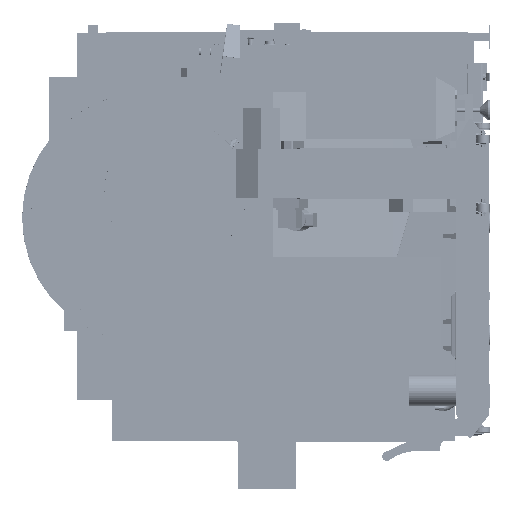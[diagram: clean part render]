
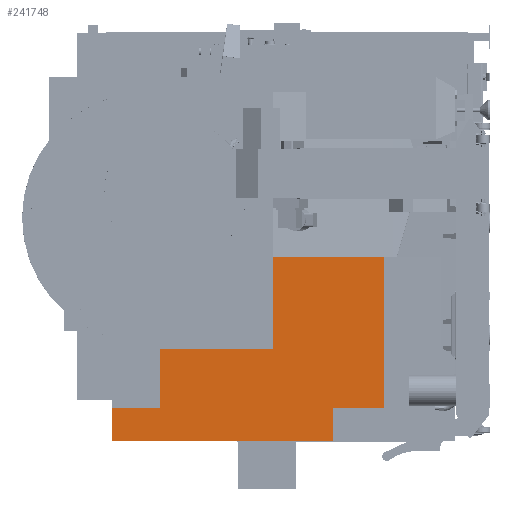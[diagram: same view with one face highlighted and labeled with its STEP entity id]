
A CAD part, left-side view. The second image highlights one B-rep face of the part: STEP entity #241748.
In plain terms, the highlighted planar face has unit normal (-1, 0, 0).
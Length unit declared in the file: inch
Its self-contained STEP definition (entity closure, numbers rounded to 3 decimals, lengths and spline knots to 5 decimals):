
#4306 = LINE ( 'NONE', #396179, #340717 ) ;
#9509 = EDGE_CURVE ( 'NONE', #98288, #141368, #370403, .T. ) ;
#15614 = CARTESIAN_POINT ( 'NONE',  ( -34.9309, 57.4563, -37.12605 ) ) ;
#28564 = ORIENTED_EDGE ( 'NONE', *, *, #605604, .T. ) ;
#30436 = ORIENTED_EDGE ( 'NONE', *, *, #9509, .T. ) ;
#38043 = LINE ( 'NONE', #93453, #123221 ) ;
#38330 = CARTESIAN_POINT ( 'NONE',  ( -34.9309, 3.3677, -45.21736 ) ) ;
#46517 = CARTESIAN_POINT ( 'NONE',  ( -34.9309, 49.91678, -37.0219 ) ) ;
#52483 = VERTEX_POINT ( 'NONE', #46517 ) ;
#55293 = EDGE_CURVE ( 'NONE', #141368, #148075, #625963, .T. ) ;
#58801 = ORIENTED_EDGE ( 'NONE', *, *, #378676, .T. ) ;
#72160 = VECTOR ( 'NONE', #471631, 39.37008 ) ;
#74214 = DIRECTION ( 'NONE',  ( 0., 1., 0. ) ) ;
#79356 = DIRECTION ( 'NONE',  ( 0., 0., 1. ) ) ;
#81147 = EDGE_CURVE ( 'NONE', #191463, #52483, #500650, .T. ) ;
#85596 = DIRECTION ( 'NONE',  ( 0., 0., 1. ) ) ;
#93453 = CARTESIAN_POINT ( 'NONE',  ( -34.9309, 57.4563, -37.12605 ) ) ;
#98288 = VERTEX_POINT ( 'NONE', #15614 ) ;
#104039 = LINE ( 'NONE', #299980, #439195 ) ;
#105987 = CARTESIAN_POINT ( 'NONE',  ( -34.9309, 18.04185, 0.02764 ) ) ;
#107120 = CARTESIAN_POINT ( 'NONE',  ( -34.9309, 18.04185, -22.55601 ) ) ;
#115213 = ORIENTED_EDGE ( 'NONE', *, *, #55293, .T. ) ;
#118195 = EDGE_CURVE ( 'NONE', #227862, #52483, #4306, .T. ) ;
#123221 = VECTOR ( 'NONE', #439612, 39.37008 ) ;
#124917 = CARTESIAN_POINT ( 'NONE',  ( -34.9309, -9.22642, -37.12605 ) ) ;
#126099 = VERTEX_POINT ( 'NONE', #415630 ) ;
#134231 = DIRECTION ( 'NONE',  ( 0., -1., 0. ) ) ;
#138128 = CARTESIAN_POINT ( 'NONE',  ( -34.9309, 0., 0. ) ) ;
#141368 = VERTEX_POINT ( 'NONE', #553519 ) ;
#148075 = VERTEX_POINT ( 'NONE', #341939 ) ;
#148353 = VECTOR ( 'NONE', #580080, 39.37008 ) ;
#160348 = EDGE_LOOP ( 'NONE', ( #506291, #325975, #58801, #28564, #30436, #115213, #560637, #225455, #458732, #458731, #630408, #327880, #636270 ) ) ;
#176832 = CARTESIAN_POINT ( 'NONE',  ( -34.9309, 49.91678, -37.12605 ) ) ;
#177353 = LINE ( 'NONE', #526776, #246118 ) ;
#183924 = DIRECTION ( 'NONE',  ( 0., 0., 1. ) ) ;
#187149 = PLANE ( 'NONE',  #301815 ) ;
#188063 = CARTESIAN_POINT ( 'NONE',  ( -34.9309, 5.2877, -45.21736 ) ) ;
#191463 = VERTEX_POINT ( 'NONE', #387147 ) ;
#225455 = ORIENTED_EDGE ( 'NONE', *, *, #259511, .T. ) ;
#227862 = VERTEX_POINT ( 'NONE', #639947 ) ;
#241748 = ADVANCED_FACE ( 'NONE', ( #281971 ), #187149, .T. ) ;
#246118 = VECTOR ( 'NONE', #79356, 39.37008 ) ;
#247094 = DIRECTION ( 'NONE',  ( 0., 0., -1. ) ) ;
#252435 = CARTESIAN_POINT ( 'NONE',  ( -34.9309, 0., -37.0219 ) ) ;
#259511 = EDGE_CURVE ( 'NONE', #466864, #374985, #581685, .T. ) ;
#281971 = FACE_OUTER_BOUND ( 'NONE', #160348, .T. ) ;
#299980 = CARTESIAN_POINT ( 'NONE',  ( -34.9309, 57.4563, -37.12605 ) ) ;
#301815 = AXIS2_PLACEMENT_3D ( 'NONE', #138128, #435340, #183924 ) ;
#325975 = ORIENTED_EDGE ( 'NONE', *, *, #522623, .F. ) ;
#327880 = ORIENTED_EDGE ( 'NONE', *, *, #448936, .T. ) ;
#328846 = CARTESIAN_POINT ( 'NONE',  ( -34.9309, 0., 0.02764 ) ) ;
#337355 = EDGE_CURVE ( 'NONE', #390097, #589059, #426800, .T. ) ;
#338495 = CARTESIAN_POINT ( 'NONE',  ( -34.9309, 57.45571, -37.12605 ) ) ;
#340717 = VECTOR ( 'NONE', #347193, 39.37008 ) ;
#341354 = VECTOR ( 'NONE', #615951, 39.37008 ) ;
#341939 = CARTESIAN_POINT ( 'NONE',  ( -34.9309, 3.3677, -45.21736 ) ) ;
#347193 = DIRECTION ( 'NONE',  ( 0., 0., -1. ) ) ;
#353621 = DIRECTION ( 'NONE',  ( 0., 1., 0. ) ) ;
#370403 = LINE ( 'NONE', #527095, #72160 ) ;
#374985 = VERTEX_POINT ( 'NONE', #432671 ) ;
#378676 = EDGE_CURVE ( 'NONE', #126099, #498605, #104039, .T. ) ;
#379234 = VECTOR ( 'NONE', #74214, 39.37008 ) ;
#385961 = LINE ( 'NONE', #124917, #491883 ) ;
#387147 = CARTESIAN_POINT ( 'NONE',  ( -34.9309, 45.80362, -37.0219 ) ) ;
#390097 = VERTEX_POINT ( 'NONE', #628934 ) ;
#396179 = CARTESIAN_POINT ( 'NONE',  ( -34.9309, 49.91678, -22.55601 ) ) ;
#409385 = VERTEX_POINT ( 'NONE', #107120 ) ;
#415630 = CARTESIAN_POINT ( 'NONE',  ( -34.9309, 45.80362, -37.12605 ) ) ;
#425480 = EDGE_CURVE ( 'NONE', #589059, #409385, #484158, .T. ) ;
#426800 = LINE ( 'NONE', #328846, #379234 ) ;
#432671 = CARTESIAN_POINT ( 'NONE',  ( -34.9309, -9.22642, -37.12605 ) ) ;
#435146 = CARTESIAN_POINT ( 'NONE',  ( -34.9309, 18.04185, -22.55601 ) ) ;
#435340 = DIRECTION ( 'NONE',  ( -1., 0., 0. ) ) ;
#439195 = VECTOR ( 'NONE', #453408, 39.37008 ) ;
#439612 = DIRECTION ( 'NONE',  ( 0., 1., 0. ) ) ;
#448936 = EDGE_CURVE ( 'NONE', #409385, #227862, #531116, .T. ) ;
#453408 = DIRECTION ( 'NONE',  ( 0., 1., 0. ) ) ;
#458731 = ORIENTED_EDGE ( 'NONE', *, *, #337355, .T. ) ;
#458732 = ORIENTED_EDGE ( 'NONE', *, *, #516485, .T. ) ;
#460985 = VECTOR ( 'NONE', #247094, 39.37008 ) ;
#464076 = VECTOR ( 'NONE', #521480, 39.37008 ) ;
#466864 = VERTEX_POINT ( 'NONE', #517455 ) ;
#471631 = DIRECTION ( 'NONE',  ( 0., 0., -1. ) ) ;
#483398 = VECTOR ( 'NONE', #134231, 39.37008 ) ;
#484158 = LINE ( 'NONE', #435146, #341354 ) ;
#491883 = VECTOR ( 'NONE', #85596, 39.37008 ) ;
#498605 = VERTEX_POINT ( 'NONE', #338495 ) ;
#500650 = LINE ( 'NONE', #252435, #539507 ) ;
#506291 = ORIENTED_EDGE ( 'NONE', *, *, #81147, .F. ) ;
#516485 = EDGE_CURVE ( 'NONE', #374985, #390097, #385961, .T. ) ;
#517455 = CARTESIAN_POINT ( 'NONE',  ( -34.9309, 3.3677, -37.12605 ) ) ;
#521480 = DIRECTION ( 'NONE',  ( 0., 1., 0. ) ) ;
#522623 = EDGE_CURVE ( 'NONE', #126099, #191463, #177353, .T. ) ;
#526776 = CARTESIAN_POINT ( 'NONE',  ( -34.9309, 45.80362, 0. ) ) ;
#527095 = CARTESIAN_POINT ( 'NONE',  ( -34.9309, 57.4563, -45.21736 ) ) ;
#531116 = LINE ( 'NONE', #625975, #464076 ) ;
#534738 = LINE ( 'NONE', #38330, #460985 ) ;
#539507 = VECTOR ( 'NONE', #353621, 39.37008 ) ;
#553519 = CARTESIAN_POINT ( 'NONE',  ( -34.9309, 57.4563, -45.21736 ) ) ;
#560637 = ORIENTED_EDGE ( 'NONE', *, *, #586117, .F. ) ;
#580080 = DIRECTION ( 'NONE',  ( 0., -1., 0. ) ) ;
#581685 = LINE ( 'NONE', #176832, #483398 ) ;
#586117 = EDGE_CURVE ( 'NONE', #466864, #148075, #534738, .T. ) ;
#589059 = VERTEX_POINT ( 'NONE', #105987 ) ;
#605604 = EDGE_CURVE ( 'NONE', #498605, #98288, #38043, .T. ) ;
#615951 = DIRECTION ( 'NONE',  ( 0., 0., -1. ) ) ;
#625963 = LINE ( 'NONE', #188063, #148353 ) ;
#625975 = CARTESIAN_POINT ( 'NONE',  ( -34.9309, 49.91678, -22.55601 ) ) ;
#628934 = CARTESIAN_POINT ( 'NONE',  ( -34.9309, -9.22642, 0.02764 ) ) ;
#630408 = ORIENTED_EDGE ( 'NONE', *, *, #425480, .T. ) ;
#636270 = ORIENTED_EDGE ( 'NONE', *, *, #118195, .T. ) ;
#639947 = CARTESIAN_POINT ( 'NONE',  ( -34.9309, 49.91678, -22.55601 ) ) ;
